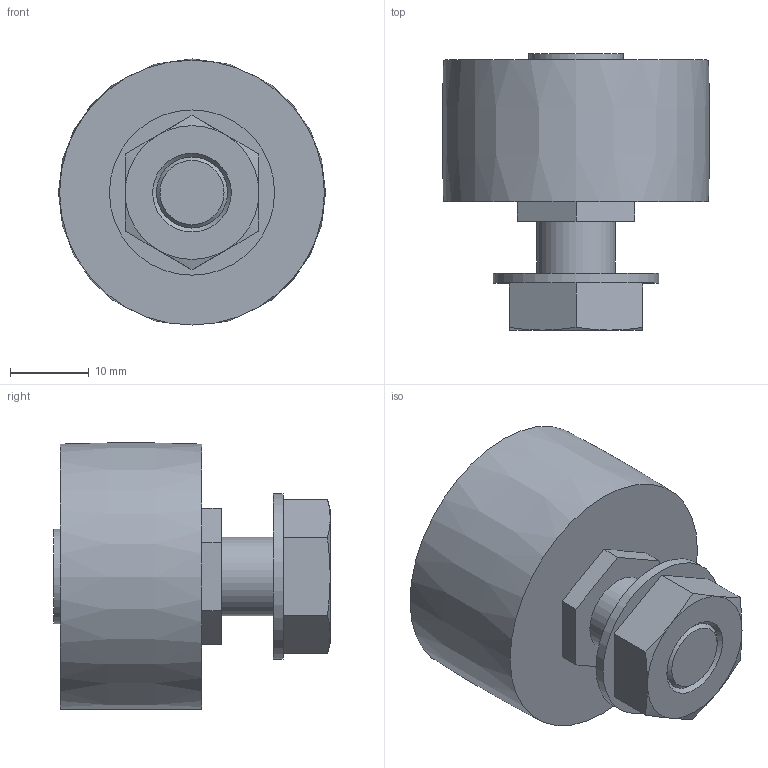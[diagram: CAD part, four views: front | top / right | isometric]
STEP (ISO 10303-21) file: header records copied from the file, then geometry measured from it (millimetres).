
FILE_DESCRIPTION( ( 'STEP AP203' ), '1' );
FILE_NAME( 'p:/temp/worker_135/temp/exporttempdir_3800_373_Urm0j/format_0/SR34C.stp', '2021-09-29T07:15:36', ( 'License CC BY-ND 4.0' ), ( 'CADENAS' ), ' ', 'PARTsolutions', ' ' );
FILE_SCHEMA( ( 'CONFIG_CONTROL_DESIGN' ) );
Length unit declared in the file: millimetre
Products named in the file (2): SR34C; _SR34C_
Assembly tree (1 placements, depth 2):
  SR34C
    _SR34C_
Bounding box: 33.96 x 35.15 x 33.82 mm (x, y, z)
Volume: 19223 mm3; surface area: 5068.3 mm2
Topology: 1 solids, 1 shells, 39 faces, 86 edges, 56 vertices
Faces by surface type: plane 27, cone 8, cylinder 3, bspline 1
Full cylindrical faces by diameter (mm): 10 x1, 12 x1, 21 x1
Entity records: 1126 total; most frequent: CARTESIAN_POINT 238, DIRECTION 162, ORIENTED_EDGE 154, EDGE_CURVE 77, AXIS2_PLACEMENT_3D 57, VERTEX_POINT 53, EDGE_LOOP 52, LINE 48
